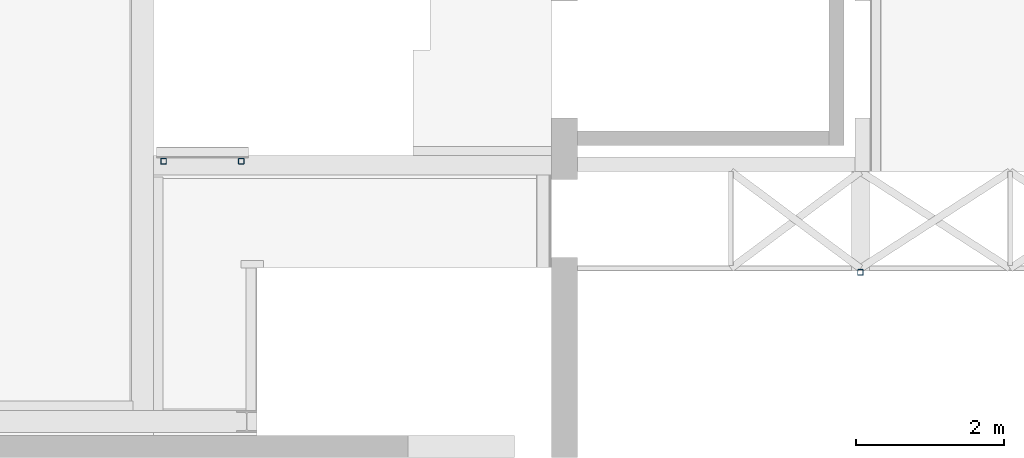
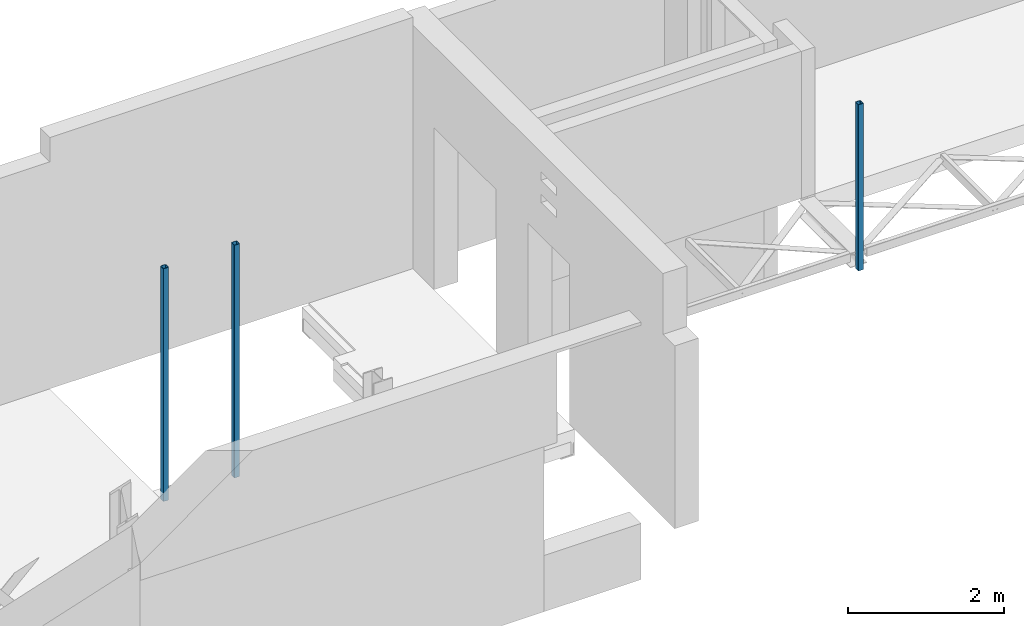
# One storey, part 7 of 68: 3 columns.
"""IFC2X3 building model written with IfcOpenShell, lengths in millimetres."""

from ifc_helpers import new_model, entity, si_unit, converted_unit, derived_unit, direction, frame, frame_2d, origin, place, context, subcontext, project, spatial, polyline, circle_curve, parameter, trimmed, segment, composite_curve, outline, extrude, source, transform, mapped, material, type_object, type_shapes, element, save


model = new_model("IFC2X3")

# Units and contexts
model_context = context("Model", 3, precision=0.01, world=origin(), true_north=direction((6.12303176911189e-17, 1.0)))
body_context = subcontext(model_context, "Body", "Model", "MODEL_VIEW")
ifc_project = project(units=[si_unit("LENGTHUNIT", "METRE", prefix="MILLI"), si_unit("AREAUNIT", "SQUARE_METRE", prefix="MILLI"), si_unit("VOLUMEUNIT", "CUBIC_METRE"), converted_unit("PLANEANGLEUNIT", "DEGREE", entity("IfcRatioMeasure", 0.0174532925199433), si_unit("PLANEANGLEUNIT", "RADIAN"), dimensions=[0, 0, 0, 0, 0, 0, 0]), si_unit("MASSUNIT", "GRAM", prefix="KILO"), derived_unit("MASSDENSITYUNIT", [(si_unit("MASSUNIT", "GRAM", prefix="KILO"), 1), (si_unit("LENGTHUNIT", "METRE"), -3)]), derived_unit("MOMENTOFINERTIAUNIT", [(si_unit("LENGTHUNIT", "METRE"), 4)]), si_unit("TIMEUNIT", "SECOND"), si_unit("FREQUENCYUNIT", "HERTZ"), si_unit("THERMODYNAMICTEMPERATUREUNIT", "DEGREE_CELSIUS"), derived_unit("THERMALTRANSMITTANCEUNIT", [(si_unit("MASSUNIT", "GRAM", prefix="KILO"), 1), (si_unit("THERMODYNAMICTEMPERATUREUNIT", "KELVIN"), -1), (si_unit("TIMEUNIT", "SECOND"), -3)]), derived_unit("VOLUMETRICFLOWRATEUNIT", [(si_unit("LENGTHUNIT", "METRE"), 3), (si_unit("TIMEUNIT", "SECOND"), -1)]), si_unit("ELECTRICCURRENTUNIT", "AMPERE"), si_unit("ELECTRICVOLTAGEUNIT", "VOLT"), si_unit("POWERUNIT", "WATT"), si_unit("FORCEUNIT", "NEWTON", prefix="KILO"), si_unit("ILLUMINANCEUNIT", "LUX"), si_unit("LUMINOUSFLUXUNIT", "LUMEN"), si_unit("LUMINOUSINTENSITYUNIT", "CANDELA"), derived_unit("USERDEFINED", [(si_unit("MASSUNIT", "GRAM", prefix="KILO"), -1), (si_unit("LENGTHUNIT", "METRE"), -2), (si_unit("TIMEUNIT", "SECOND"), 3), (si_unit("LUMINOUSFLUXUNIT", "LUMEN"), 1)]), derived_unit("LINEARVELOCITYUNIT", [(si_unit("LENGTHUNIT", "METRE"), 1), (si_unit("TIMEUNIT", "SECOND"), -1)]), si_unit("PRESSUREUNIT", "PASCAL"), derived_unit("USERDEFINED", [(si_unit("LENGTHUNIT", "METRE"), -2), (si_unit("MASSUNIT", "GRAM", prefix="KILO"), 1), (si_unit("TIMEUNIT", "SECOND"), -2)]), derived_unit("LINEARFORCEUNIT", [(si_unit("MASSUNIT", "GRAM", prefix="KILO"), 1), (si_unit("LENGTHUNIT", "METRE"), 1), (si_unit("TIMEUNIT", "SECOND"), -2), (si_unit("LENGTHUNIT", "METRE"), -1)]), derived_unit("PLANARFORCEUNIT", [(si_unit("MASSUNIT", "GRAM", prefix="KILO"), 1), (si_unit("LENGTHUNIT", "METRE"), 1), (si_unit("TIMEUNIT", "SECOND"), -2), (si_unit("LENGTHUNIT", "METRE"), -2)])], contexts=[model_context])

# Site, building, storey
site_placement = place(None, origin())
site = spatial("IfcSite", under=ifc_project, at=site_placement, Name="Theater aan de Parade", CompositionType="ELEMENT")
building_placement = place(site_placement, origin())
building = spatial("IfcBuilding", under=site, at=building_placement, Name="Theater aan de Parade", CompositionType="ELEMENT")
storey_placement = place(building_placement, frame((0.0, 0.0, 8750.0)))
storey = spatial("IfcBuildingStorey", under=building, at=storey_placement, Name="02 tweede verdieping", CompositionType="ELEMENT", Elevation=8750.0)

# Columns
ifc_material = material(Name="00_PBT_MAT_staal_S355")
column_type_1 = type_object("IfcColumnType", Name="28_PBT_SC_staal_koker:S355_K80x80x6.3", PredefinedType="COLUMN", material=ifc_material)
shared_shape_1 = source(origin(), body_context, "Body", "SweptSolid", [
    extrude(outline(composite_curve([segment(trimmed(circle_curve(frame_2d((-30.55, -30.55), x_axis=(1.0, 0.0)), 9.45), [parameter(180.0)], [parameter(270.0)], True, "PARAMETER"), True, "CONTINUOUS"), segment(polyline([(-30.55, -40.0), (30.55, -40.0)]), True, "CONTINUOUS"), segment(trimmed(circle_curve(frame_2d((30.55, -30.55), x_axis=(1.0, 0.0)), 9.45), [parameter(270.0)], [parameter(5.08888749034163e-14)], True, "PARAMETER"), True, "CONTINUOUS"), segment(polyline([(40.0, -30.55), (40.0, 30.55)]), True, "CONTINUOUS"), segment(trimmed(circle_curve(frame_2d((30.55, 30.55), x_axis=(1.0, 0.0)), 9.45), [parameter(3.56222124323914e-13)], [parameter(90.0000000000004)], True, "PARAMETER"), True, "CONTINUOUS"), segment(polyline([(30.55, 40.0), (-30.55, 40.0)]), True, "CONTINUOUS"), segment(trimmed(circle_curve(frame_2d((-30.55, 30.55), x_axis=(1.0, 0.0)), 9.45), [parameter(90.0000000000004)], [parameter(180.0)], True, "PARAMETER"), True, "CONTINUOUS"), segment(polyline([(-40.0, 30.55), (-40.0, -30.55)]), True, "CONTINUOUS")], self_intersect=False), holes=[composite_curve([segment(trimmed(circle_curve(frame_2d((27.4, 27.4), x_axis=(1.0, 0.0)), 6.3), [parameter(0.0)], [parameter(90.0000000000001)], True, "PARAMETER"), False, "CONTINUOUS"), segment(polyline([(33.7, 27.4), (33.7, -27.4)]), True, "CONTINUOUS"), segment(trimmed(circle_curve(frame_2d((27.4, -27.4), x_axis=(1.0, 0.0)), 6.3), [parameter(270.0)], [parameter(360.0)], True, "PARAMETER"), False, "CONTINUOUS"), segment(polyline([(27.4, -33.7), (-27.4, -33.7)]), True, "CONTINUOUS"), segment(trimmed(circle_curve(frame_2d((-27.4, -27.4), x_axis=(1.0, 0.0)), 6.3), [parameter(180.0)], [parameter(270.0)], True, "PARAMETER"), False, "CONTINUOUS"), segment(polyline([(-33.7, -27.4), (-33.7, 27.4)]), True, "CONTINUOUS"), segment(trimmed(circle_curve(frame_2d((-27.4, 27.4), x_axis=(1.0, 0.0)), 6.3), [parameter(89.9999999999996)], [parameter(180.0)], True, "PARAMETER"), False, "CONTINUOUS"), segment(polyline([(-27.4, 33.7), (27.4, 33.7)]), True, "CONTINUOUS")], self_intersect=False)]), frame((0.0, 0.0, 8540.0), z_axis=(0.0, 0.0, 1.0), x_axis=(-1.0, 0.0, 0.0)), (0.0, 0.0, 1.0), 3640.0),
])
type_shapes(column_type_1, [shared_shape_1])
for number, where in (
    (1, (63167.7650192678, 46551.8631171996, -8750.0)),
    (2, (62117.7650192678, 46551.8631171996, -8750.0)),
):
    element("IfcColumn", number, at=place(storey_placement, frame(where)), inside=storey, type_object=column_type_1, material=ifc_material, Name="28_PBT_SC_staal_koker:S355_K80x80x6.3", ObjectType="28_PBT_SC_staal_koker:S355_K80x80x6.3", context=body_context, shape_type="MappedRepresentation", body=[
        mapped(shared_shape_1, transform((0.0, 0.0, 0.0), scale=1.0)),
    ])
column_type_2 = type_object("IfcColumnType", Name="28_PBT_SC_staal_koker:S355_K80x80x6.3", PredefinedType="COLUMN", material=ifc_material)
shared_shape_2 = source(origin(), body_context, "Body", "SweptSolid", [
    extrude(outline(composite_curve([segment(polyline([(-30.5500000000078, -40.0), (30.549999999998, -40.0)]), True, "CONTINUOUS"), segment(trimmed(circle_curve(frame_2d((30.5499999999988, -30.5499999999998), x_axis=(0.0, 1.0)), 9.45), [parameter(180.0)], [parameter(270.0)], True, "PARAMETER"), True, "CONTINUOUS"), segment(polyline([(40.0, -30.5500000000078), (40.0, 30.549999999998)]), True, "CONTINUOUS"), segment(trimmed(circle_curve(frame_2d((30.5499999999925, 30.5499999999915), x_axis=(0.0, 1.0)), 9.45), [parameter(270.0)], [parameter(360.0)], True, "PARAMETER"), True, "CONTINUOUS"), segment(polyline([(30.5500000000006, 40.0), (-30.549999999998, 40.0)]), True, "CONTINUOUS"), segment(trimmed(circle_curve(frame_2d((-30.5499999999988, 30.5499999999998), x_axis=(0.0, 1.0)), 9.45), [parameter(360.0)], [parameter(90.0000000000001)], True, "PARAMETER"), True, "CONTINUOUS"), segment(polyline([(-40.0, 30.5500000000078), (-40.0, -30.549999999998)]), True, "CONTINUOUS"), segment(trimmed(circle_curve(frame_2d((-30.5499999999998, -30.550000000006), x_axis=(0.0, 1.0)), 9.45), [parameter(89.9999999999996)], [parameter(180.0)], True, "PARAMETER"), True, "CONTINUOUS")], self_intersect=False), holes=[composite_curve([segment(polyline([(33.7000000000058, 27.3999999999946), (33.6999999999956, -27.4000000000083)]), True, "CONTINUOUS"), segment(trimmed(circle_curve(frame_2d((27.3999999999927, -27.4000000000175), x_axis=(0.0, 1.0)), 6.3), [parameter(180.0)], [parameter(270.0)], True, "PARAMETER"), False, "CONTINUOUS"), segment(polyline([(27.3999999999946, -33.7000000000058), (-27.4000000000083, -33.7000000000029)]), True, "CONTINUOUS"), segment(trimmed(circle_curve(frame_2d((-27.4000000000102, -27.4), x_axis=(0.0, 1.0)), 6.3), [parameter(90.0)], [parameter(180.0)], True, "PARAMETER"), False, "CONTINUOUS"), segment(polyline([(-33.7000000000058, -27.4000000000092), (-33.6999999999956, 27.4000000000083)]), True, "CONTINUOUS"), segment(trimmed(circle_curve(frame_2d((-27.4, 27.4000000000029), x_axis=(0.0, 1.0)), 6.3), [parameter(3.56222124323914e-13)], [parameter(90.0000000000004)], True, "PARAMETER"), False, "CONTINUOUS"), segment(polyline([(-27.4000000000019, 33.7000000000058), (27.400000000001, 33.6999999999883)]), True, "CONTINUOUS"), segment(trimmed(circle_curve(frame_2d((27.4000000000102, 27.4), x_axis=(0.0, 1.0)), 6.3), [parameter(270.0)], [parameter(0.0)], True, "PARAMETER"), False, "CONTINUOUS")], self_intersect=False)]), frame((71531.2707440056, 45049.99644175, 9760.0), z_axis=(0.0, 0.0, 1.0), x_axis=(0.0, 1.0, 0.0)), (0.0, 0.0, 1.0), 2600.0),
])
type_shapes(column_type_2, [shared_shape_2])
column_placement = place(storey_placement, frame((0.0, 0.0, -8750.0)))
element("IfcColumn", 3, at=column_placement, inside=storey, type_object=column_type_2, material=ifc_material, Name="28_PBT_SC_staal_koker:S355_K80x80x6.3", ObjectType="28_PBT_SC_staal_koker:S355_K80x80x6.3", context=body_context, shape_type="MappedRepresentation", body=[
    mapped(shared_shape_2, transform((0.0, 0.0, 0.0), scale=1.0)),
])

save(model, "model.ifc")
